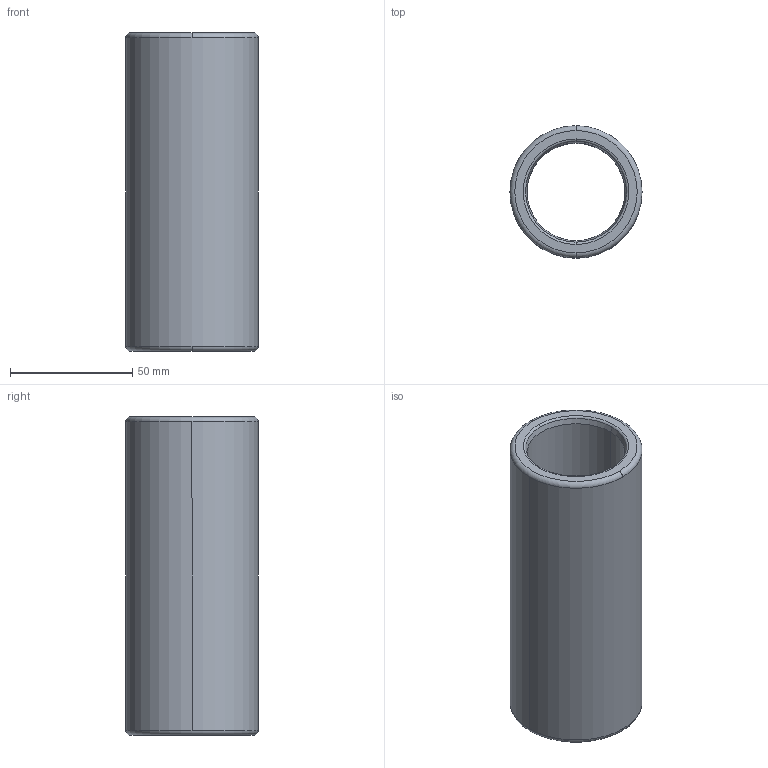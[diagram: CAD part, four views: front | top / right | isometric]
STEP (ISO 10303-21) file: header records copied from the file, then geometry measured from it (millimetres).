
FILE_DESCRIPTION((''),'2;1');
FILE_NAME('B30_032_130.stp','2009-01-12T10:29:03',(''),(''),'Mechanical Desktop 2009','Mechanical Desktop 2009',', , ');
FILE_SCHEMA(('CONFIG_CONTROL_DESIGN'));
Length unit declared in the file: millimetre
Products named in the file (2): Product; blmdl1
Assembly tree (1 placements, depth 2):
  Product
    blmdl1
Bounding box: 53.99 x 53.99 x 130 mm (x, y, z)
Volume: 133870.5 mm3; surface area: 39921.4 mm2
Topology: 1 solids, 1 shells, 18 faces, 48 edges, 32 vertices
Faces by surface type: torus 8, cylinder 4, cone 4, plane 2
Entity records: 705 total; most frequent: DIRECTION 128, CARTESIAN_POINT 100, ORIENTED_EDGE 96, AXIS2_PLACEMENT_3D 60, EDGE_CURVE 48, CIRCLE 40, VERTEX_POINT 32, EDGE_LOOP 20
